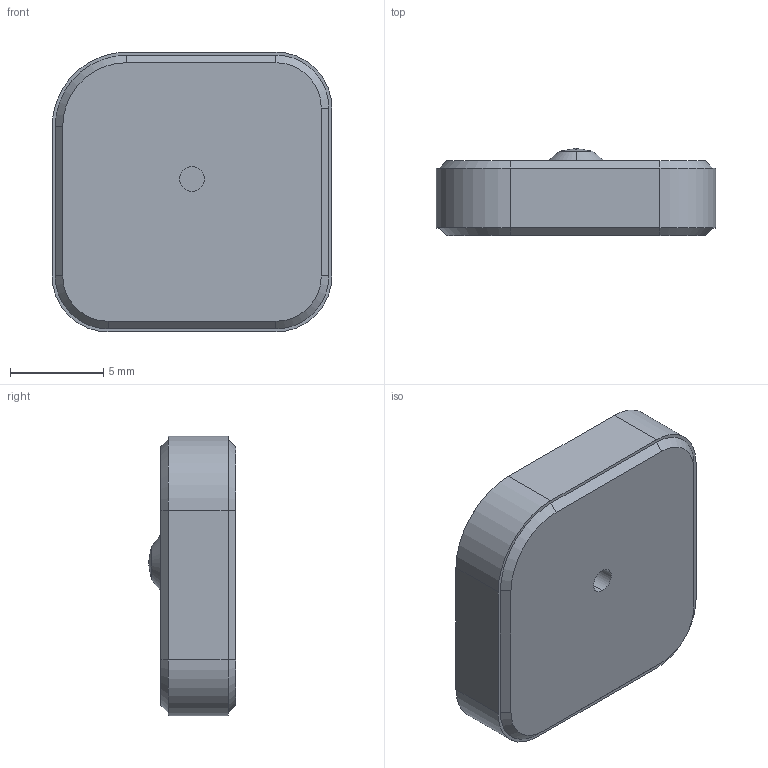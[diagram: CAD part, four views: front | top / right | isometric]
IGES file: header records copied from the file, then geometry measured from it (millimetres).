
Start section:  PTC IGES file: patch_da15_any_prt.igs
Global section: file name: patch_da15_any_prt.igs; native system: Pro/ENGINEER by Parametric Technology Corporation; preprocessor: 2006170; author: GRA; organization: Unknown; date: 20080630.105205; units: millimetre
Bounding box: 15 x 4.67 x 15 mm (x, y, z)
Surface area: 641.2 mm2 (no closed solid volume)
Topology: 0 solids, 0 shells, 41 faces, 198 edges, 196 vertices
Faces by surface type: revolution 22, bspline 19
